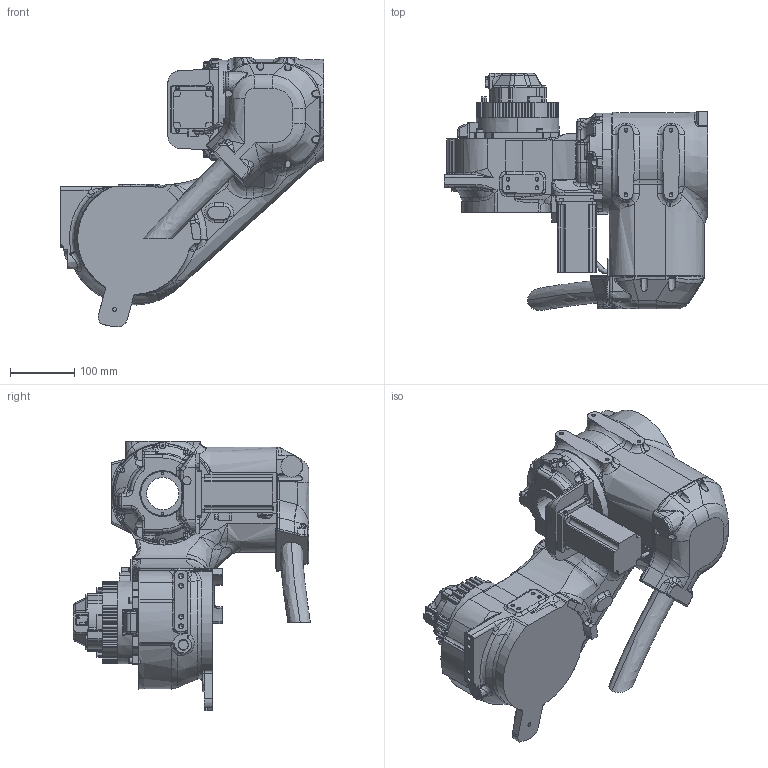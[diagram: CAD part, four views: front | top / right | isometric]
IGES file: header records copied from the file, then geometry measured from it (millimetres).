
Start section:  PTC IGES file: u_axis.igs
Global section: file name: u_axis.igs; native system: Creo Parametric by Parametric Technology Corporation; preprocessor: 2014000; author: Miyoshi_Nozomi; organization: Unknown; date: 20170720.143107; units: millimetre
Bounding box: 409 x 367.96 x 418 mm (x, y, z)
Volume: 13815663.8 mm3; surface area: 563348.9 mm2
Topology: 1 solids, 14 shells, 1835 faces, 4801 edges, 2997 vertices
Faces by surface type: bspline 943, revolution 892
